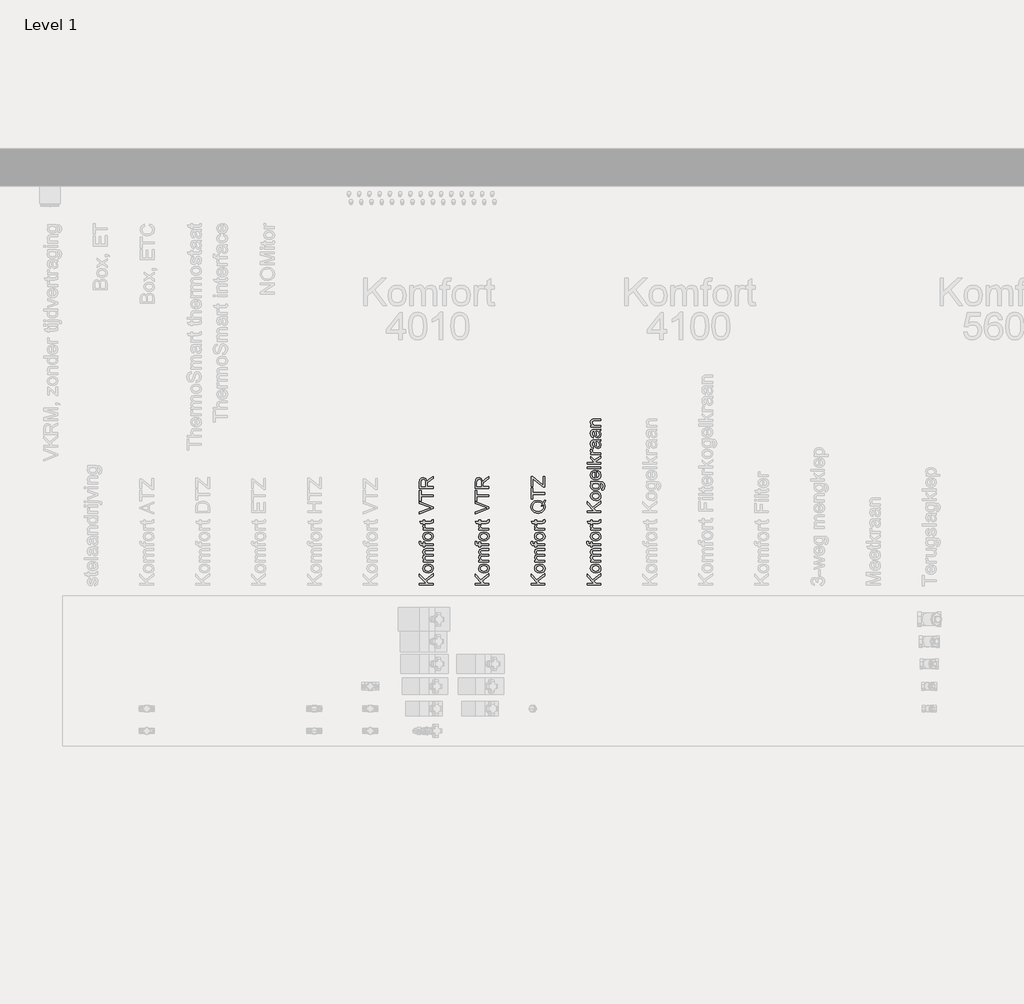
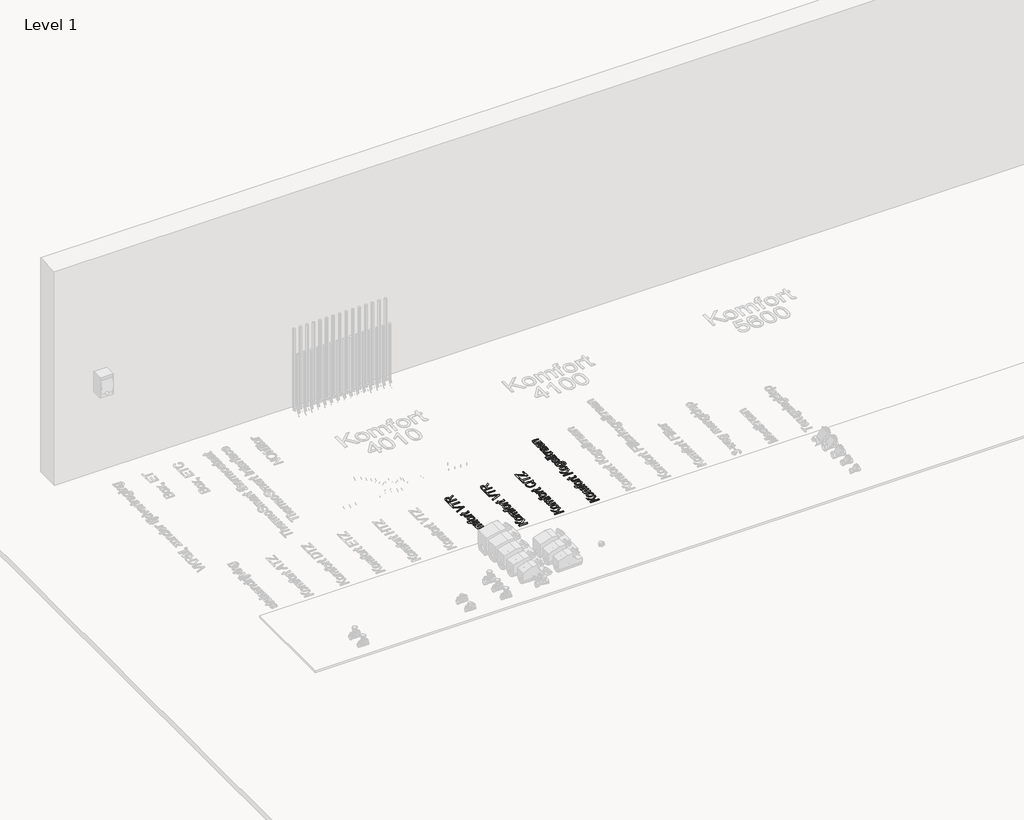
# One storey, part 18 of 34: 4 proxies.
"""IFC4 building model written with IfcOpenShell, lengths in millimetres."""

from ifc_helpers import new_model, si_unit, origin, origin_with_axes, place, context, project, spatial, polyline, outline, extrude, element, save

model = new_model("IFC4")

# Units and contexts
model_context = context("Model", 3, world=origin())
ifc_project = project(units=[si_unit("LENGTHUNIT", "METRE", prefix="MILLI")], contexts=[model_context])

# Site, building, storey
site = spatial("IfcSite", under=ifc_project)
building = spatial("IfcBuilding", under=site)
storey = spatial("IfcBuildingStorey", under=building, Name="Level 1", Elevation=0.0)

# Proxies
placement = place(None, origin())
element("IfcBuildingElementProxy", 1, Name="DN", ObjectType="DN", at=placement, inside=storey, context=model_context, shape_type="SweptSolid", body=[
    extrude(outline(polyline([(-14811.4250614, 5447.818969), (-14885.2712152, 5447.818969), (-14885.2712152, 5457.0497382), (-14849.1233787, 5457.0497382), (-14885.2712152, 5494.9103151), (-14885.2712152, 5507.818969), (-14854.9106383, 5476.0341132), (-14811.4250614, 5508.9728151), (-14811.4250614, 5497.6867574), (-14848.6726575, 5469.489642), (-14836.8096768, 5457.0497382), (-14811.4250614, 5457.0497382), (-14811.4250614, 5447.818969)])), origin_with_axes(), (0.0, 0.0, 1.0), 5.0),
    extrude(outline(polyline([(-14838.540446, 5512.4343536), (-14851.6158667, 5514.4310483), (-14860.806071, 5520.4211324), (-14865.3087753, 5527.8219738), (-14866.8096768, 5536.6831517), (-14864.9820025, 5546.3804173), (-14859.4989796, 5554.1260603), (-14850.7933005, 5559.2034341), (-14839.2976575, 5560.895892), (-14822.8733787, 5557.9031036), (-14813.5795085, 5549.1861565), (-14810.2712152, 5536.6831517), (-14812.0921287, 5526.8686985), (-14817.5548691, 5519.1320699), (-14826.4430902, 5514.1087827), (-14838.540446, 5512.4343536)]), holes=[polyline([(-14838.5584748, 5521.6651228), (-14824.2525854, 5525.9379593), (-14819.5019844, 5536.6831517), (-14824.2796287, 5547.3922863), (-14838.8469364, 5551.6651228), (-14852.8283066, 5547.365243), (-14857.5789075, 5536.6831517), (-14852.8463354, 5525.9379593), (-14838.5584748, 5521.6651228)])]), origin_with_axes(), (0.0, 0.0, 1.0), 5.0),
    extrude(outline(polyline([(-14811.4250614, 5571.2805074), (-14865.6558306, 5571.2805074), (-14865.6558306, 5580.5112767), (-14856.7315518, 5580.5112767), (-14864.0422489, 5586.8574305), (-14866.8096768, 5595.8898824), (-14863.9881623, 5605.1386805), (-14856.0825133, 5610.2228151), (-14864.1278859, 5617.4253392), (-14866.8096768, 5626.520892), (-14862.3475373, 5638.5912045), (-14848.6005421, 5642.818969), (-14811.4250614, 5642.818969), (-14811.4250614, 5633.5881997), (-14844.634196, 5633.5881997), (-14852.3415277, 5632.7318295), (-14856.1365998, 5629.630868), (-14857.5789075, 5624.3574305), (-14853.8829941, 5615.2799065), (-14842.0380421, 5611.6651228), (-14811.4250614, 5611.6651228), (-14811.4250614, 5602.4343536), (-14845.6618402, 5602.4343536), (-14854.6041479, 5600.2979353), (-14857.5789075, 5593.2937286), (-14855.5957344, 5586.4607959), (-14849.790446, 5581.9175267), (-14838.774821, 5580.5112767), (-14811.4250614, 5580.5112767), (-14811.4250614, 5571.2805074)])), origin_with_axes(), (0.0, 0.0, 1.0), 5.0),
    extrude(outline(polyline([(-14811.4250614, 5658.9728151), (-14856.4250614, 5658.9728151), (-14856.4250614, 5650.895892), (-14865.6558306, 5650.895892), (-14865.6558306, 5658.9728151), (-14871.118571, 5658.9728151), (-14878.8168883, 5659.9463728), (-14884.3156864, 5664.6699305), (-14886.4250614, 5673.9728151), (-14885.415446, 5682.3922863), (-14876.7615998, 5681.0401228), (-14877.1942921, 5675.7216132), (-14875.6618402, 5669.9073103), (-14869.946696, 5668.2035843), (-14865.6558306, 5668.2035843), (-14865.6558306, 5678.5881997), (-14856.4250614, 5678.5881997), (-14856.4250614, 5668.2035843), (-14811.4250614, 5668.2035843), (-14811.4250614, 5658.9728151)])), origin_with_axes(), (0.0, 0.0, 1.0), 5.0),
    extrude(outline(polyline([(-14838.540446, 5684.3574305), (-14851.6158667, 5686.3541252), (-14860.806071, 5692.3442093), (-14865.3087753, 5699.7450507), (-14866.8096768, 5708.6062286), (-14864.9820025, 5718.3034942), (-14859.4989796, 5726.0491372), (-14850.7933005, 5731.126511), (-14839.2976575, 5732.818969), (-14822.8733787, 5729.8261805), (-14813.5795085, 5721.1092334), (-14810.2712152, 5708.6062286), (-14812.0921287, 5698.7917755), (-14817.5548691, 5691.0551468), (-14826.4430902, 5686.0318596), (-14838.540446, 5684.3574305)]), holes=[polyline([(-14838.5584748, 5693.5881997), (-14824.2525854, 5697.8610363), (-14819.5019844, 5708.6062286), (-14824.2796287, 5719.3153632), (-14838.8469364, 5723.5881997), (-14852.8283066, 5719.2883199), (-14857.5789075, 5708.6062286), (-14852.8463354, 5697.8610363), (-14838.5584748, 5693.5881997)])]), origin_with_axes(), (0.0, 0.0, 1.0), 5.0),
    extrude(outline(polyline([(-14811.4250614, 5743.2035843), (-14865.6558306, 5743.2035843), (-14865.6558306, 5751.2805074), (-14857.6329941, 5751.2805074), (-14865.024821, 5757.0136805), (-14866.8096768, 5762.7829113), (-14863.9611191, 5772.0497382), (-14855.6858787, 5768.9668055), (-14857.5789075, 5762.4764209), (-14855.7579941, 5757.2570699), (-14850.7099171, 5753.9307478), (-14839.9286671, 5752.4343536), (-14811.4250614, 5752.4343536), (-14811.4250614, 5743.2035843)])), origin_with_axes(), (0.0, 0.0, 1.0), 5.0),
    extrude(outline(polyline([(-14819.1233787, 5797.4343536), (-14811.1546287, 5798.5881997), (-14810.2712152, 5791.6831517), (-14811.8036671, 5783.9487767), (-14815.8240998, 5780.0906036), (-14826.2988594, 5778.9728151), (-14856.4250614, 5778.9728151), (-14856.4250614, 5772.0497382), (-14865.6558306, 5772.0497382), (-14865.6558306, 5778.9728151), (-14878.8349171, 5778.9728151), (-14884.2615998, 5788.2035843), (-14865.6558306, 5788.2035843), (-14865.6558306, 5797.4343536), (-14856.4250614, 5797.4343536), (-14856.4250614, 5788.2035843), (-14826.5692921, 5788.2035843), (-14821.8096768, 5788.6903632), (-14820.1239796, 5790.2678872), (-14819.5019844, 5793.4139209), (-14819.1233787, 5797.4343536)])), origin_with_axes(), (0.0, 0.0, 1.0), 5.0),
    extrude(outline(polyline([(-14811.4250614, 5858.4800267), (-14885.2712152, 5829.0930074), (-14885.2712152, 5838.9728151), (-14832.0680902, 5858.6422863), (-14820.0789075, 5862.6266613), (-14832.0680902, 5866.5569497), (-14885.2712152, 5886.2805074), (-14885.2712152, 5896.1603151), (-14811.4250614, 5868.0172863), (-14811.4250614, 5858.4800267)])), origin_with_axes(), (0.0, 0.0, 1.0), 5.0),
    extrude(outline(polyline([(-14811.4250614, 5923.2035843), (-14876.040446, 5923.2035843), (-14876.040446, 5898.9728151), (-14885.2712152, 5898.9728151), (-14885.2712152, 5956.6651228), (-14876.040446, 5956.6651228), (-14876.040446, 5932.4343536), (-14811.4250614, 5932.4343536), (-14811.4250614, 5923.2035843)])), origin_with_axes(), (0.0, 0.0, 1.0), 5.0),
    extrude(outline(polyline([(-14811.4250614, 5967.0497382), (-14885.2712152, 5967.0497382), (-14885.2712152, 5998.8706517), (-14883.2790277, 6013.6452911), (-14876.2297489, 6021.7222142), (-14865.0608787, 6024.7420459), (-14851.7555902, 6019.7390411), (-14844.8865998, 6004.2793055), (-14840.9382825, 6009.5256997), (-14831.4370806, 6017.0076709), (-14811.4250614, 6029.3213728), (-14811.4250614, 6018.5942093), (-14826.7315518, 6008.9848343), (-14836.8637633, 6002.0437286), (-14841.6504219, 5997.1669257), (-14843.4082344, 5992.7769017), (-14843.7327537, 5987.4223343), (-14843.7327537, 5976.2805074), (-14811.4250614, 5976.2805074), (-14811.4250614, 5967.0497382)]), holes=[polyline([(-14852.9635229, 5976.2805074), (-14852.9635229, 5996.9415651), (-14854.2706143, 6007.4794257), (-14858.4533066, 6013.4650026), (-14864.7183306, 6015.5112767), (-14872.8493402, 6011.6080315), (-14876.040446, 5999.2672863), (-14876.040446, 5976.2805074), (-14852.9635229, 5976.2805074)])]), origin_with_axes(), (0.0, 0.0, 1.0), 5.0),
])
element("IfcBuildingElementProxy", 2, Name="DN", ObjectType="DN", at=placement, inside=storey, context=model_context, shape_type="SweptSolid", body=[
    extrude(outline(polyline([(-14511.4250614, 5447.818969), (-14585.2712152, 5447.818969), (-14585.2712152, 5457.0497382), (-14549.1233787, 5457.0497382), (-14585.2712152, 5494.9103151), (-14585.2712152, 5507.818969), (-14554.9106383, 5476.0341132), (-14511.4250614, 5508.9728151), (-14511.4250614, 5497.6867574), (-14548.6726575, 5469.489642), (-14536.8096768, 5457.0497382), (-14511.4250614, 5457.0497382), (-14511.4250614, 5447.818969)])), origin_with_axes(), (0.0, 0.0, 1.0), 5.0),
    extrude(outline(polyline([(-14538.540446, 5512.4343536), (-14551.6158667, 5514.4310483), (-14560.806071, 5520.4211324), (-14565.3087753, 5527.8219738), (-14566.8096768, 5536.6831517), (-14564.9820025, 5546.3804173), (-14559.4989796, 5554.1260603), (-14550.7933005, 5559.2034341), (-14539.2976575, 5560.895892), (-14522.8733787, 5557.9031036), (-14513.5795085, 5549.1861565), (-14510.2712152, 5536.6831517), (-14512.0921287, 5526.8686985), (-14517.5548691, 5519.1320699), (-14526.4430902, 5514.1087827), (-14538.540446, 5512.4343536)]), holes=[polyline([(-14538.5584748, 5521.6651228), (-14524.2525854, 5525.9379593), (-14519.5019844, 5536.6831517), (-14524.2796287, 5547.3922863), (-14538.8469364, 5551.6651228), (-14552.8283066, 5547.365243), (-14557.5789075, 5536.6831517), (-14552.8463354, 5525.9379593), (-14538.5584748, 5521.6651228)])]), origin_with_axes(), (0.0, 0.0, 1.0), 5.0),
    extrude(outline(polyline([(-14511.4250614, 5571.2805074), (-14565.6558306, 5571.2805074), (-14565.6558306, 5580.5112767), (-14556.7315518, 5580.5112767), (-14564.0422489, 5586.8574305), (-14566.8096768, 5595.8898824), (-14563.9881623, 5605.1386805), (-14556.0825133, 5610.2228151), (-14564.1278859, 5617.4253392), (-14566.8096768, 5626.520892), (-14562.3475373, 5638.5912045), (-14548.6005421, 5642.818969), (-14511.4250614, 5642.818969), (-14511.4250614, 5633.5881997), (-14544.634196, 5633.5881997), (-14552.3415277, 5632.7318295), (-14556.1365998, 5629.630868), (-14557.5789075, 5624.3574305), (-14553.8829941, 5615.2799065), (-14542.0380421, 5611.6651228), (-14511.4250614, 5611.6651228), (-14511.4250614, 5602.4343536), (-14545.6618402, 5602.4343536), (-14554.6041479, 5600.2979353), (-14557.5789075, 5593.2937286), (-14555.5957344, 5586.4607959), (-14549.790446, 5581.9175267), (-14538.774821, 5580.5112767), (-14511.4250614, 5580.5112767), (-14511.4250614, 5571.2805074)])), origin_with_axes(), (0.0, 0.0, 1.0), 5.0),
    extrude(outline(polyline([(-14511.4250614, 5658.9728151), (-14556.4250614, 5658.9728151), (-14556.4250614, 5650.895892), (-14565.6558306, 5650.895892), (-14565.6558306, 5658.9728151), (-14571.118571, 5658.9728151), (-14578.8168883, 5659.9463728), (-14584.3156864, 5664.6699305), (-14586.4250614, 5673.9728151), (-14585.415446, 5682.3922863), (-14576.7615998, 5681.0401228), (-14577.1942921, 5675.7216132), (-14575.6618402, 5669.9073103), (-14569.946696, 5668.2035843), (-14565.6558306, 5668.2035843), (-14565.6558306, 5678.5881997), (-14556.4250614, 5678.5881997), (-14556.4250614, 5668.2035843), (-14511.4250614, 5668.2035843), (-14511.4250614, 5658.9728151)])), origin_with_axes(), (0.0, 0.0, 1.0), 5.0),
    extrude(outline(polyline([(-14538.540446, 5684.3574305), (-14551.6158667, 5686.3541252), (-14560.806071, 5692.3442093), (-14565.3087753, 5699.7450507), (-14566.8096768, 5708.6062286), (-14564.9820025, 5718.3034942), (-14559.4989796, 5726.0491372), (-14550.7933005, 5731.126511), (-14539.2976575, 5732.818969), (-14522.8733787, 5729.8261805), (-14513.5795085, 5721.1092334), (-14510.2712152, 5708.6062286), (-14512.0921287, 5698.7917755), (-14517.5548691, 5691.0551468), (-14526.4430902, 5686.0318596), (-14538.540446, 5684.3574305)]), holes=[polyline([(-14538.5584748, 5693.5881997), (-14524.2525854, 5697.8610363), (-14519.5019844, 5708.6062286), (-14524.2796287, 5719.3153632), (-14538.8469364, 5723.5881997), (-14552.8283066, 5719.2883199), (-14557.5789075, 5708.6062286), (-14552.8463354, 5697.8610363), (-14538.5584748, 5693.5881997)])]), origin_with_axes(), (0.0, 0.0, 1.0), 5.0),
    extrude(outline(polyline([(-14511.4250614, 5743.2035843), (-14565.6558306, 5743.2035843), (-14565.6558306, 5751.2805074), (-14557.6329941, 5751.2805074), (-14565.024821, 5757.0136805), (-14566.8096768, 5762.7829113), (-14563.9611191, 5772.0497382), (-14555.6858787, 5768.9668055), (-14557.5789075, 5762.4764209), (-14555.7579941, 5757.2570699), (-14550.7099171, 5753.9307478), (-14539.9286671, 5752.4343536), (-14511.4250614, 5752.4343536), (-14511.4250614, 5743.2035843)])), origin_with_axes(), (0.0, 0.0, 1.0), 5.0),
    extrude(outline(polyline([(-14519.1233787, 5797.4343536), (-14511.1546287, 5798.5881997), (-14510.2712152, 5791.6831517), (-14511.8036671, 5783.9487767), (-14515.8240998, 5780.0906036), (-14526.2988594, 5778.9728151), (-14556.4250614, 5778.9728151), (-14556.4250614, 5772.0497382), (-14565.6558306, 5772.0497382), (-14565.6558306, 5778.9728151), (-14578.8349171, 5778.9728151), (-14584.2615998, 5788.2035843), (-14565.6558306, 5788.2035843), (-14565.6558306, 5797.4343536), (-14556.4250614, 5797.4343536), (-14556.4250614, 5788.2035843), (-14526.5692921, 5788.2035843), (-14521.8096768, 5788.6903632), (-14520.1239796, 5790.2678872), (-14519.5019844, 5793.4139209), (-14519.1233787, 5797.4343536)])), origin_with_axes(), (0.0, 0.0, 1.0), 5.0),
    extrude(outline(polyline([(-14511.4250614, 5858.4800267), (-14585.2712152, 5829.0930074), (-14585.2712152, 5838.9728151), (-14532.0680902, 5858.6422863), (-14520.0789075, 5862.6266613), (-14532.0680902, 5866.5569497), (-14585.2712152, 5886.2805074), (-14585.2712152, 5896.1603151), (-14511.4250614, 5868.0172863), (-14511.4250614, 5858.4800267)])), origin_with_axes(), (0.0, 0.0, 1.0), 5.0),
    extrude(outline(polyline([(-14511.4250614, 5923.2035843), (-14576.040446, 5923.2035843), (-14576.040446, 5898.9728151), (-14585.2712152, 5898.9728151), (-14585.2712152, 5956.6651228), (-14576.040446, 5956.6651228), (-14576.040446, 5932.4343536), (-14511.4250614, 5932.4343536), (-14511.4250614, 5923.2035843)])), origin_with_axes(), (0.0, 0.0, 1.0), 5.0),
    extrude(outline(polyline([(-14511.4250614, 5967.0497382), (-14585.2712152, 5967.0497382), (-14585.2712152, 5998.8706517), (-14583.2790277, 6013.6452911), (-14576.2297489, 6021.7222142), (-14565.0608787, 6024.7420459), (-14551.7555902, 6019.7390411), (-14544.8865998, 6004.2793055), (-14540.9382825, 6009.5256997), (-14531.4370806, 6017.0076709), (-14511.4250614, 6029.3213728), (-14511.4250614, 6018.5942093), (-14526.7315518, 6008.9848343), (-14536.8637633, 6002.0437286), (-14541.6504219, 5997.1669257), (-14543.4082344, 5992.7769017), (-14543.7327537, 5987.4223343), (-14543.7327537, 5976.2805074), (-14511.4250614, 5976.2805074), (-14511.4250614, 5967.0497382)]), holes=[polyline([(-14552.9635229, 5976.2805074), (-14552.9635229, 5996.9415651), (-14554.2706143, 6007.4794257), (-14558.4533066, 6013.4650026), (-14564.7183306, 6015.5112767), (-14572.8493402, 6011.6080315), (-14576.040446, 5999.2672863), (-14576.040446, 5976.2805074), (-14552.9635229, 5976.2805074)])]), origin_with_axes(), (0.0, 0.0, 1.0), 5.0),
])
element("IfcBuildingElementProxy", 3, Name="DN", ObjectType="DN", at=placement, inside=storey, context=model_context, shape_type="SweptSolid", body=[
    extrude(outline(polyline([(-14211.4250614, 5447.818969), (-14285.2712152, 5447.818969), (-14285.2712152, 5457.0497382), (-14249.1233787, 5457.0497382), (-14285.2712152, 5494.9103151), (-14285.2712152, 5507.818969), (-14254.9106383, 5476.0341132), (-14211.4250614, 5508.9728151), (-14211.4250614, 5497.6867574), (-14248.6726575, 5469.489642), (-14236.8096768, 5457.0497382), (-14211.4250614, 5457.0497382), (-14211.4250614, 5447.818969)])), origin_with_axes(), (0.0, 0.0, 1.0), 5.0),
    extrude(outline(polyline([(-14238.540446, 5512.4343536), (-14251.6158667, 5514.4310483), (-14260.806071, 5520.4211324), (-14265.3087753, 5527.8219738), (-14266.8096768, 5536.6831517), (-14264.9820025, 5546.3804173), (-14259.4989796, 5554.1260603), (-14250.7933005, 5559.2034341), (-14239.2976575, 5560.895892), (-14222.8733787, 5557.9031036), (-14213.5795085, 5549.1861565), (-14210.2712152, 5536.6831517), (-14212.0921287, 5526.8686985), (-14217.5548691, 5519.1320699), (-14226.4430902, 5514.1087827), (-14238.540446, 5512.4343536)]), holes=[polyline([(-14238.5584748, 5521.6651228), (-14224.2525854, 5525.9379593), (-14219.5019844, 5536.6831517), (-14224.2796287, 5547.3922863), (-14238.8469364, 5551.6651228), (-14252.8283066, 5547.365243), (-14257.5789075, 5536.6831517), (-14252.8463354, 5525.9379593), (-14238.5584748, 5521.6651228)])]), origin_with_axes(), (0.0, 0.0, 1.0), 5.0),
    extrude(outline(polyline([(-14211.4250614, 5571.2805074), (-14265.6558306, 5571.2805074), (-14265.6558306, 5580.5112767), (-14256.7315518, 5580.5112767), (-14264.0422489, 5586.8574305), (-14266.8096768, 5595.8898824), (-14263.9881623, 5605.1386805), (-14256.0825133, 5610.2228151), (-14264.1278859, 5617.4253392), (-14266.8096768, 5626.520892), (-14262.3475373, 5638.5912045), (-14248.6005421, 5642.818969), (-14211.4250614, 5642.818969), (-14211.4250614, 5633.5881997), (-14244.634196, 5633.5881997), (-14252.3415277, 5632.7318295), (-14256.1365998, 5629.630868), (-14257.5789075, 5624.3574305), (-14253.8829941, 5615.2799065), (-14242.0380421, 5611.6651228), (-14211.4250614, 5611.6651228), (-14211.4250614, 5602.4343536), (-14245.6618402, 5602.4343536), (-14254.6041479, 5600.2979353), (-14257.5789075, 5593.2937286), (-14255.5957344, 5586.4607959), (-14249.790446, 5581.9175267), (-14238.774821, 5580.5112767), (-14211.4250614, 5580.5112767), (-14211.4250614, 5571.2805074)])), origin_with_axes(), (0.0, 0.0, 1.0), 5.0),
    extrude(outline(polyline([(-14211.4250614, 5658.9728151), (-14256.4250614, 5658.9728151), (-14256.4250614, 5650.895892), (-14265.6558306, 5650.895892), (-14265.6558306, 5658.9728151), (-14271.118571, 5658.9728151), (-14278.8168883, 5659.9463728), (-14284.3156864, 5664.6699305), (-14286.4250614, 5673.9728151), (-14285.415446, 5682.3922863), (-14276.7615998, 5681.0401228), (-14277.1942921, 5675.7216132), (-14275.6618402, 5669.9073103), (-14269.946696, 5668.2035843), (-14265.6558306, 5668.2035843), (-14265.6558306, 5678.5881997), (-14256.4250614, 5678.5881997), (-14256.4250614, 5668.2035843), (-14211.4250614, 5668.2035843), (-14211.4250614, 5658.9728151)])), origin_with_axes(), (0.0, 0.0, 1.0), 5.0),
    extrude(outline(polyline([(-14238.540446, 5684.3574305), (-14251.6158667, 5686.3541252), (-14260.806071, 5692.3442093), (-14265.3087753, 5699.7450507), (-14266.8096768, 5708.6062286), (-14264.9820025, 5718.3034942), (-14259.4989796, 5726.0491372), (-14250.7933005, 5731.126511), (-14239.2976575, 5732.818969), (-14222.8733787, 5729.8261805), (-14213.5795085, 5721.1092334), (-14210.2712152, 5708.6062286), (-14212.0921287, 5698.7917755), (-14217.5548691, 5691.0551468), (-14226.4430902, 5686.0318596), (-14238.540446, 5684.3574305)]), holes=[polyline([(-14238.5584748, 5693.5881997), (-14224.2525854, 5697.8610363), (-14219.5019844, 5708.6062286), (-14224.2796287, 5719.3153632), (-14238.8469364, 5723.5881997), (-14252.8283066, 5719.2883199), (-14257.5789075, 5708.6062286), (-14252.8463354, 5697.8610363), (-14238.5584748, 5693.5881997)])]), origin_with_axes(), (0.0, 0.0, 1.0), 5.0),
    extrude(outline(polyline([(-14211.4250614, 5743.2035843), (-14265.6558306, 5743.2035843), (-14265.6558306, 5751.2805074), (-14257.6329941, 5751.2805074), (-14265.024821, 5757.0136805), (-14266.8096768, 5762.7829113), (-14263.9611191, 5772.0497382), (-14255.6858787, 5768.9668055), (-14257.5789075, 5762.4764209), (-14255.7579941, 5757.2570699), (-14250.7099171, 5753.9307478), (-14239.9286671, 5752.4343536), (-14211.4250614, 5752.4343536), (-14211.4250614, 5743.2035843)])), origin_with_axes(), (0.0, 0.0, 1.0), 5.0),
    extrude(outline(polyline([(-14219.1233787, 5797.4343536), (-14211.1546287, 5798.5881997), (-14210.2712152, 5791.6831517), (-14211.8036671, 5783.9487767), (-14215.8240998, 5780.0906036), (-14226.2988594, 5778.9728151), (-14256.4250614, 5778.9728151), (-14256.4250614, 5772.0497382), (-14265.6558306, 5772.0497382), (-14265.6558306, 5778.9728151), (-14278.8349171, 5778.9728151), (-14284.2615998, 5788.2035843), (-14265.6558306, 5788.2035843), (-14265.6558306, 5797.4343536), (-14256.4250614, 5797.4343536), (-14256.4250614, 5788.2035843), (-14226.5692921, 5788.2035843), (-14221.8096768, 5788.6903632), (-14220.1239796, 5790.2678872), (-14219.5019844, 5793.4139209), (-14219.1233787, 5797.4343536)])), origin_with_axes(), (0.0, 0.0, 1.0), 5.0),
    extrude(outline(polyline([(-14220.2772248, 5892.1398824), (-14212.5789075, 5903.5881997), (-14205.8180902, 5901.100219), (-14214.4539075, 5885.9019017), (-14210.2712152, 5867.9631997), (-14215.0939316, 5849.9884401), (-14228.6516239, 5837.5575507), (-14248.3301094, 5833.2035843), (-14268.1528258, 5837.5485363), (-14281.7555902, 5849.9163247), (-14286.4250614, 5867.8730555), (-14281.6474171, 5885.9469738), (-14268.2700133, 5898.2156036), (-14248.8709748, 5902.4343536), (-14232.7351575, 5899.8742574), (-14220.2772248, 5892.1398824)]), holes=[polyline([(-14232.5548691, 5870.505267), (-14225.5416479, 5884.5317093), (-14235.0608787, 5891.0356156), (-14248.4022248, 5893.2035843), (-14263.55547, 5890.1386805), (-14273.6155662, 5881.1693295), (-14277.1942921, 5867.927142), (-14275.3846467, 5857.8670459), (-14269.9557104, 5849.6819497), (-14260.9345265, 5844.2462526), (-14248.3481383, 5842.4343536), (-14236.0321828, 5844.2259702), (-14226.9569123, 5849.6008199), (-14221.3657164, 5857.7611264), (-14219.5019844, 5867.9091132), (-14221.3950133, 5877.8430074), (-14225.4875614, 5868.1254593), (-14232.5548691, 5870.505267)])]), origin_with_axes(), (0.0, 0.0, 1.0), 5.0),
    extrude(outline(polyline([(-14211.4250614, 5934.7420459), (-14276.040446, 5934.7420459), (-14276.040446, 5910.5112767), (-14285.2712152, 5910.5112767), (-14285.2712152, 5968.2035843), (-14276.040446, 5968.2035843), (-14276.040446, 5943.9728151), (-14211.4250614, 5943.9728151), (-14211.4250614, 5934.7420459)])), origin_with_axes(), (0.0, 0.0, 1.0), 5.0),
    extrude(outline(polyline([(-14211.4250614, 5972.818969), (-14220.9983787, 5972.818969), (-14267.2423691, 6010.5894017), (-14276.040446, 6017.7648824), (-14276.040446, 5977.4343536), (-14285.2712152, 5977.4343536), (-14285.2712152, 6029.3574305), (-14276.040446, 6029.3574305), (-14225.4334748, 5988.0172863), (-14220.6558306, 5984.1230555), (-14220.6558306, 6030.5112767), (-14211.4250614, 6030.5112767), (-14211.4250614, 5972.818969)])), origin_with_axes(), (0.0, 0.0, 1.0), 5.0),
])
element("IfcBuildingElementProxy", 4, Name="DN", ObjectType="DN", at=placement, inside=storey, context=model_context, shape_type="SweptSolid", body=[
    extrude(outline(polyline([(-13911.4250614, 5447.818969), (-13985.2712152, 5447.818969), (-13985.2712152, 5457.0497382), (-13949.1233787, 5457.0497382), (-13985.2712152, 5494.9103151), (-13985.2712152, 5507.818969), (-13954.9106383, 5476.0341132), (-13911.4250614, 5508.9728151), (-13911.4250614, 5497.6867574), (-13948.6726575, 5469.489642), (-13936.8096768, 5457.0497382), (-13911.4250614, 5457.0497382), (-13911.4250614, 5447.818969)])), origin_with_axes(), (0.0, 0.0, 1.0), 5.0),
    extrude(outline(polyline([(-13938.540446, 5512.4343536), (-13951.6158667, 5514.4310483), (-13960.806071, 5520.4211324), (-13965.3087753, 5527.8219738), (-13966.8096768, 5536.6831517), (-13964.9820025, 5546.3804173), (-13959.4989796, 5554.1260603), (-13950.7933005, 5559.2034341), (-13939.2976575, 5560.895892), (-13922.8733787, 5557.9031036), (-13913.5795085, 5549.1861565), (-13910.2712152, 5536.6831517), (-13912.0921287, 5526.8686985), (-13917.5548691, 5519.1320699), (-13926.4430902, 5514.1087827), (-13938.540446, 5512.4343536)]), holes=[polyline([(-13938.5584748, 5521.6651228), (-13924.2525854, 5525.9379593), (-13919.5019844, 5536.6831517), (-13924.2796287, 5547.3922863), (-13938.8469364, 5551.6651228), (-13952.8283066, 5547.365243), (-13957.5789075, 5536.6831517), (-13952.8463354, 5525.9379593), (-13938.5584748, 5521.6651228)])]), origin_with_axes(), (0.0, 0.0, 1.0), 5.0),
    extrude(outline(polyline([(-13911.4250614, 5571.2805074), (-13965.6558306, 5571.2805074), (-13965.6558306, 5580.5112767), (-13956.7315518, 5580.5112767), (-13964.0422489, 5586.8574305), (-13966.8096768, 5595.8898824), (-13963.9881623, 5605.1386805), (-13956.0825133, 5610.2228151), (-13964.1278859, 5617.4253392), (-13966.8096768, 5626.520892), (-13962.3475373, 5638.5912045), (-13948.6005421, 5642.818969), (-13911.4250614, 5642.818969), (-13911.4250614, 5633.5881997), (-13944.634196, 5633.5881997), (-13952.3415277, 5632.7318295), (-13956.1365998, 5629.630868), (-13957.5789075, 5624.3574305), (-13953.8829941, 5615.2799065), (-13942.0380421, 5611.6651228), (-13911.4250614, 5611.6651228), (-13911.4250614, 5602.4343536), (-13945.6618402, 5602.4343536), (-13954.6041479, 5600.2979353), (-13957.5789075, 5593.2937286), (-13955.5957344, 5586.4607959), (-13949.790446, 5581.9175267), (-13938.774821, 5580.5112767), (-13911.4250614, 5580.5112767), (-13911.4250614, 5571.2805074)])), origin_with_axes(), (0.0, 0.0, 1.0), 5.0),
    extrude(outline(polyline([(-13911.4250614, 5658.9728151), (-13956.4250614, 5658.9728151), (-13956.4250614, 5650.895892), (-13965.6558306, 5650.895892), (-13965.6558306, 5658.9728151), (-13971.118571, 5658.9728151), (-13978.8168883, 5659.9463728), (-13984.3156864, 5664.6699305), (-13986.4250614, 5673.9728151), (-13985.415446, 5682.3922863), (-13976.7615998, 5681.0401228), (-13977.1942921, 5675.7216132), (-13975.6618402, 5669.9073103), (-13969.946696, 5668.2035843), (-13965.6558306, 5668.2035843), (-13965.6558306, 5678.5881997), (-13956.4250614, 5678.5881997), (-13956.4250614, 5668.2035843), (-13911.4250614, 5668.2035843), (-13911.4250614, 5658.9728151)])), origin_with_axes(), (0.0, 0.0, 1.0), 5.0),
    extrude(outline(polyline([(-13938.540446, 5684.3574305), (-13951.6158667, 5686.3541252), (-13960.806071, 5692.3442093), (-13965.3087753, 5699.7450507), (-13966.8096768, 5708.6062286), (-13964.9820025, 5718.3034942), (-13959.4989796, 5726.0491372), (-13950.7933005, 5731.126511), (-13939.2976575, 5732.818969), (-13922.8733787, 5729.8261805), (-13913.5795085, 5721.1092334), (-13910.2712152, 5708.6062286), (-13912.0921287, 5698.7917755), (-13917.5548691, 5691.0551468), (-13926.4430902, 5686.0318596), (-13938.540446, 5684.3574305)]), holes=[polyline([(-13938.5584748, 5693.5881997), (-13924.2525854, 5697.8610363), (-13919.5019844, 5708.6062286), (-13924.2796287, 5719.3153632), (-13938.8469364, 5723.5881997), (-13952.8283066, 5719.2883199), (-13957.5789075, 5708.6062286), (-13952.8463354, 5697.8610363), (-13938.5584748, 5693.5881997)])]), origin_with_axes(), (0.0, 0.0, 1.0), 5.0),
    extrude(outline(polyline([(-13911.4250614, 5743.2035843), (-13965.6558306, 5743.2035843), (-13965.6558306, 5751.2805074), (-13957.6329941, 5751.2805074), (-13965.024821, 5757.0136805), (-13966.8096768, 5762.7829113), (-13963.9611191, 5772.0497382), (-13955.6858787, 5768.9668055), (-13957.5789075, 5762.4764209), (-13955.7579941, 5757.2570699), (-13950.7099171, 5753.9307478), (-13939.9286671, 5752.4343536), (-13911.4250614, 5752.4343536), (-13911.4250614, 5743.2035843)])), origin_with_axes(), (0.0, 0.0, 1.0), 5.0),
    extrude(outline(polyline([(-13919.1233787, 5797.4343536), (-13911.1546287, 5798.5881997), (-13910.2712152, 5791.6831517), (-13911.8036671, 5783.9487767), (-13915.8240998, 5780.0906036), (-13926.2988594, 5778.9728151), (-13956.4250614, 5778.9728151), (-13956.4250614, 5772.0497382), (-13965.6558306, 5772.0497382), (-13965.6558306, 5778.9728151), (-13978.8349171, 5778.9728151), (-13984.2615998, 5788.2035843), (-13965.6558306, 5788.2035843), (-13965.6558306, 5797.4343536), (-13956.4250614, 5797.4343536), (-13956.4250614, 5788.2035843), (-13926.5692921, 5788.2035843), (-13921.8096768, 5788.6903632), (-13920.1239796, 5790.2678872), (-13919.5019844, 5793.4139209), (-13919.1233787, 5797.4343536)])), origin_with_axes(), (0.0, 0.0, 1.0), 5.0),
    extrude(outline(polyline([(-13911.4250614, 5836.6651228), (-13985.2712152, 5836.6651228), (-13985.2712152, 5845.895892), (-13949.1233787, 5845.895892), (-13985.2712152, 5883.756469), (-13985.2712152, 5896.6651228), (-13954.9106383, 5864.880267), (-13911.4250614, 5897.818969), (-13911.4250614, 5886.5329113), (-13948.6726575, 5858.3357959), (-13936.8096768, 5845.895892), (-13911.4250614, 5845.895892), (-13911.4250614, 5836.6651228)])), origin_with_axes(), (0.0, 0.0, 1.0), 5.0),
    extrude(outline(polyline([(-13938.540446, 5901.2805074), (-13951.6158667, 5903.2772021), (-13960.806071, 5909.2672863), (-13965.3087753, 5916.6681276), (-13966.8096768, 5925.5293055), (-13964.9820025, 5935.2265711), (-13959.4989796, 5942.9722142), (-13950.7933005, 5948.049588), (-13939.2976575, 5949.7420459), (-13922.8733787, 5946.7492574), (-13913.5795085, 5938.0323103), (-13910.2712152, 5925.5293055), (-13912.0921287, 5915.7148524), (-13917.5548691, 5907.9782238), (-13926.4430902, 5902.9549365), (-13938.540446, 5901.2805074)]), holes=[polyline([(-13938.5584748, 5910.5112767), (-13924.2525854, 5914.7841132), (-13919.5019844, 5925.5293055), (-13924.2796287, 5936.2384401), (-13938.8469364, 5940.5112767), (-13952.8283066, 5936.2113968), (-13957.5789075, 5925.5293055), (-13952.8463354, 5914.7841132), (-13938.5584748, 5910.5112767)])]), origin_with_axes(), (0.0, 0.0, 1.0), 5.0),
    extrude(outline(polyline([(-13906.8096768, 5957.818969), (-13905.6558306, 5967.0497382), (-13900.7880421, 5970.0425267), (-13898.7327537, 5979.0028632), (-13901.0584748, 5988.4499786), (-13907.5849171, 5992.9571901), (-13918.3481383, 5993.5881997), (-13913.1558306, 5987.0888007), (-13911.4250614, 5979.1651228), (-13913.4397849, 5969.6481456), (-13919.4839556, 5962.5515411), (-13928.3451335, 5958.1367274), (-13938.8108787, 5956.6651228), (-13953.1167681, 5959.3063488), (-13963.2399652, 5966.9505795), (-13966.8096768, 5978.7144017), (-13964.790446, 5986.9490771), (-13958.7327537, 5993.5881997), (-13965.6558306, 5993.5881997), (-13965.6558306, 6002.818969), (-13918.8349171, 6002.818969), (-13900.9052296, 6000.2949305), (-13892.5668883, 5992.2991372), (-13889.5019844, 5978.8225747), (-13893.8198931, 5963.4710122), (-13899.2262933, 5959.1328211), (-13906.8096768, 5957.818969)]), holes=[polyline([(-13939.4418883, 5965.895892), (-13925.1540277, 5969.8351949), (-13920.6558306, 5979.724017), (-13925.1269844, 5989.5948103), (-13939.1714556, 5993.5881997), (-13952.9364796, 5989.4776228), (-13957.5789075, 5979.5797863), (-13953.008595, 5969.8892815), (-13939.4418883, 5965.895892)])]), origin_with_axes(), (0.0, 0.0, 1.0), 5.0),
    extrude(outline(polyline([(-13927.5789075, 6054.6338728), (-13926.4250614, 6063.6843536), (-13914.5079941, 6055.2198103), (-13910.2712152, 6039.4535843), (-13912.0988895, 6028.622755), (-13917.5819123, 6020.2889209), (-13926.364214, 6014.9749185), (-13938.0897248, 6013.2035843), (-13950.2096167, 6014.9929473), (-13959.2736191, 6020.3610363), (-13964.9256623, 6028.5821901), (-13966.8096768, 6038.9307478), (-13964.9301695, 6048.9570399), (-13959.2916479, 6056.9686084), (-13950.2456743, 6062.2217634), (-13938.1438114, 6063.9728151), (-13935.6558306, 6063.9187286), (-13935.6558306, 6022.4343536), (-13923.6666479, 6027.7438488), (-13919.5019844, 6039.6338728), (-13921.431071, 6048.6843536), (-13927.5789075, 6054.6338728)]), holes=[polyline([(-13944.8865998, 6022.4343536), (-13944.8865998, 6054.7420459), (-13953.2519844, 6051.0461324), (-13957.5789075, 6038.8946901), (-13954.1263835, 6027.5275026), (-13944.8865998, 6022.4343536)])]), origin_with_axes(), (0.0, 0.0, 1.0), 5.0),
    extrude(outline(polyline([(-13911.4250614, 6073.2035843), (-13985.2712152, 6073.2035843), (-13985.2712152, 6082.4343536), (-13911.4250614, 6082.4343536), (-13911.4250614, 6073.2035843)])), origin_with_axes(), (0.0, 0.0, 1.0), 5.0),
    extrude(outline(polyline([(-13911.4250614, 6096.2805074), (-13985.2712152, 6096.2805074), (-13985.2712152, 6105.5112767), (-13945.5897248, 6105.5112767), (-13965.6558306, 6126.208392), (-13965.6558306, 6138.9728151), (-13945.337321, 6118.0232959), (-13911.4250614, 6140.1266613), (-13911.4250614, 6129.3454113), (-13938.9190518, 6111.4067093), (-13933.2039075, 6105.5112767), (-13911.4250614, 6105.5112767), (-13911.4250614, 6096.2805074)])), origin_with_axes(), (0.0, 0.0, 1.0), 5.0),
    extrude(outline(polyline([(-13911.4250614, 6148.2035843), (-13965.6558306, 6148.2035843), (-13965.6558306, 6156.2805074), (-13957.6329941, 6156.2805074), (-13965.024821, 6162.0136805), (-13966.8096768, 6167.7829113), (-13963.9611191, 6177.0497382), (-13955.6858787, 6173.9668055), (-13957.5789075, 6167.4764209), (-13955.7579941, 6162.2570699), (-13950.7099171, 6158.9307478), (-13939.9286671, 6157.4343536), (-13911.4250614, 6157.4343536), (-13911.4250614, 6148.2035843)])), origin_with_axes(), (0.0, 0.0, 1.0), 5.0),
    extrude(outline(polyline([(-13918.3481383, 6217.4343536), (-13912.0921287, 6208.4830315), (-13910.2712152, 6198.5942093), (-13914.6522248, 6185.1897622), (-13925.8481383, 6180.5112767), (-13933.149821, 6182.2781036), (-13938.4503018, 6186.9205315), (-13941.4791479, 6193.3838728), (-13942.8673691, 6201.3706517), (-13946.040446, 6217.380267), (-13948.0957344, 6217.4343536), (-13954.9106383, 6214.8922863), (-13957.5789075, 6204.6879593), (-13955.8030662, 6195.349017), (-13949.5019844, 6190.895892), (-13950.6558306, 6181.6651228), (-13959.6702537, 6185.6585122), (-13964.9527056, 6193.6993776), (-13966.8096768, 6205.8778632), (-13965.1690518, 6217.0647622), (-13961.0494604, 6223.3838728), (-13954.7844364, 6226.2144017), (-13946.7075133, 6226.6651228), (-13935.2231383, 6226.6651228), (-13919.1864796, 6227.1338728), (-13911.4250614, 6228.9728151), (-13911.4250614, 6219.7420459), (-13918.3481383, 6217.4343536)]), holes=[polyline([(-13936.8096768, 6217.4343536), (-13933.9791479, 6202.5425267), (-13932.4827537, 6194.6008199), (-13930.0488594, 6191.0040651), (-13926.4971768, 6189.7420459), (-13921.5031864, 6192.4914449), (-13919.5019844, 6200.5593536), (-13921.7105181, 6209.8982959), (-13927.056071, 6215.9199305), (-13934.1954941, 6217.380267), (-13936.8096768, 6217.4343536)])]), origin_with_axes(), (0.0, 0.0, 1.0), 5.0),
    extrude(outline(polyline([(-13918.3481383, 6273.9728151), (-13912.0921287, 6265.021493), (-13910.2712152, 6255.1326709), (-13914.6522248, 6241.7282238), (-13925.8481383, 6237.0497382), (-13933.149821, 6238.8165651), (-13938.4503018, 6243.458993), (-13941.4791479, 6249.9223343), (-13942.8673691, 6257.9091132), (-13946.040446, 6273.9187286), (-13948.0957344, 6273.9728151), (-13954.9106383, 6271.4307478), (-13957.5789075, 6261.2264209), (-13955.8030662, 6251.8874786), (-13949.5019844, 6247.4343536), (-13950.6558306, 6238.2035843), (-13959.6702537, 6242.1969738), (-13964.9527056, 6250.2378392), (-13966.8096768, 6262.4163247), (-13965.1690518, 6273.6032238), (-13961.0494604, 6279.9223343), (-13954.7844364, 6282.7528632), (-13946.7075133, 6283.2035843), (-13935.2231383, 6283.2035843), (-13919.1864796, 6283.6723343), (-13911.4250614, 6285.5112767), (-13911.4250614, 6276.2805074), (-13918.3481383, 6273.9728151)]), holes=[polyline([(-13936.8096768, 6273.9728151), (-13933.9791479, 6259.0809882), (-13932.4827537, 6251.1392815), (-13930.0488594, 6247.5425267), (-13926.4971768, 6246.2805074), (-13921.5031864, 6249.0299065), (-13919.5019844, 6257.0978151), (-13921.7105181, 6266.4367574), (-13927.056071, 6272.458392), (-13934.1954941, 6273.9187286), (-13936.8096768, 6273.9728151)])]), origin_with_axes(), (0.0, 0.0, 1.0), 5.0),
    extrude(outline(polyline([(-13911.4250614, 6295.895892), (-13965.6558306, 6295.895892), (-13965.6558306, 6305.1266613), (-13958.0837152, 6305.1266613), (-13964.6281864, 6312.1849545), (-13966.8096768, 6321.8213728), (-13965.0518643, 6330.5383199), (-13960.4364796, 6336.4878392), (-13953.6486191, 6339.255267), (-13944.7243402, 6339.7420459), (-13911.4250614, 6339.7420459), (-13911.4250614, 6330.5112767), (-13943.4803498, 6330.5112767), (-13951.6474171, 6329.4475747), (-13955.9653258, 6325.6885603), (-13957.5789075, 6319.3514209), (-13953.9551094, 6309.3363968), (-13940.1990998, 6305.1266613), (-13911.4250614, 6305.1266613), (-13911.4250614, 6295.895892)])), origin_with_axes(), (0.0, 0.0, 1.0), 5.0),
])

save(model, "model.ifc")
